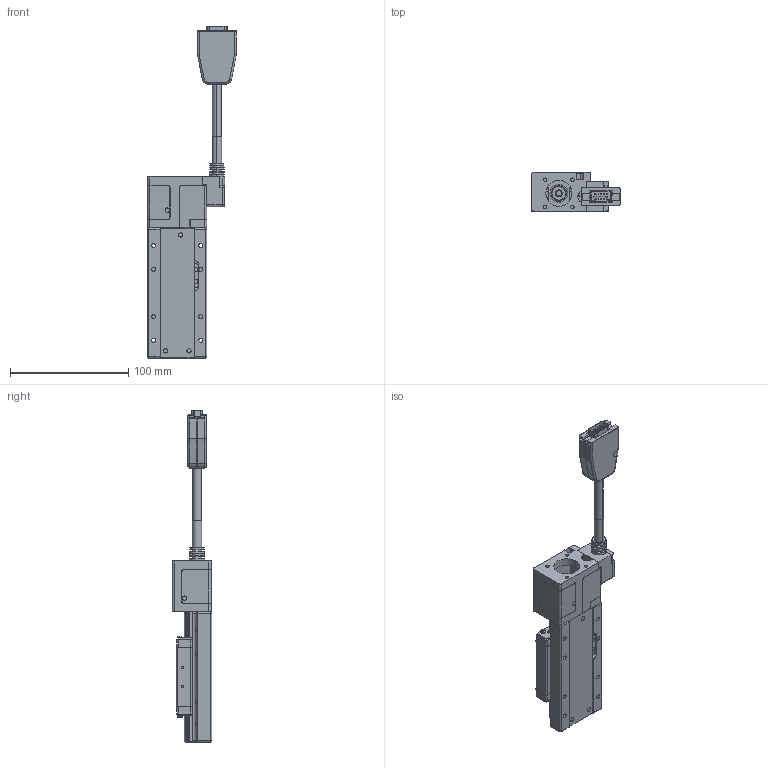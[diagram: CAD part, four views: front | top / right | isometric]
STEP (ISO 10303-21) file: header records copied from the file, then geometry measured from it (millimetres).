
FILE_DESCRIPTION (( 'STEP AP203' ), '1' );
FILE_NAME ('CXN5030-S2?N(42框無馬達).', '2024-01-05T02:09:58', ( '' ), ( '' ), 'SwSTEP 2.0', 'SolidWorks 2019', '' );
FILE_SCHEMA (( 'CONFIG_CONTROL_DESIGN' ));
Length unit declared in the file: millimetre
Products named in the file (4): CXN5030-01-1^CXN5030-S2?N(42框無馬達)_defeature_GMT; CXN5030-S2?N(42框無馬達); Group2^CXN5030-S2?N(42框無馬達)_defeature_GMT; Group1^CXN5030-S2?N(42框無馬達)_defeature_GMT
Assembly tree (3 placements, depth 2):
  CXN5030-S2?N(42框無馬達)
    Group1^CXN5030-S2?N(42框無馬達)_defeature_GMT
    Group2^CXN5030-S2?N(42框無馬達)_defeature_GMT
    CXN5030-01-1^CXN5030-S2?N(42框無馬達)_defeature_GMT
Bounding box: 75 x 33.5 x 280.6 mm (x, y, z)
Volume: 31519 mm3; surface area: 93187.7 mm2
Topology: 11 solids, 63 shells, 4667 faces, 11864 edges, 7220 vertices
Faces by surface type: plane 1627, cylinder 1396, cone 754, torus 367, bspline 341, sphere 182
Entity records: 151480 total; most frequent: CARTESIAN_POINT 40305, DIRECTION 23839, ORIENTED_EDGE 23080, EDGE_CURVE 11540, AXIS2_PLACEMENT_3D 8987, VERTEX_POINT 7123, VECTOR 5865, LINE 5865
